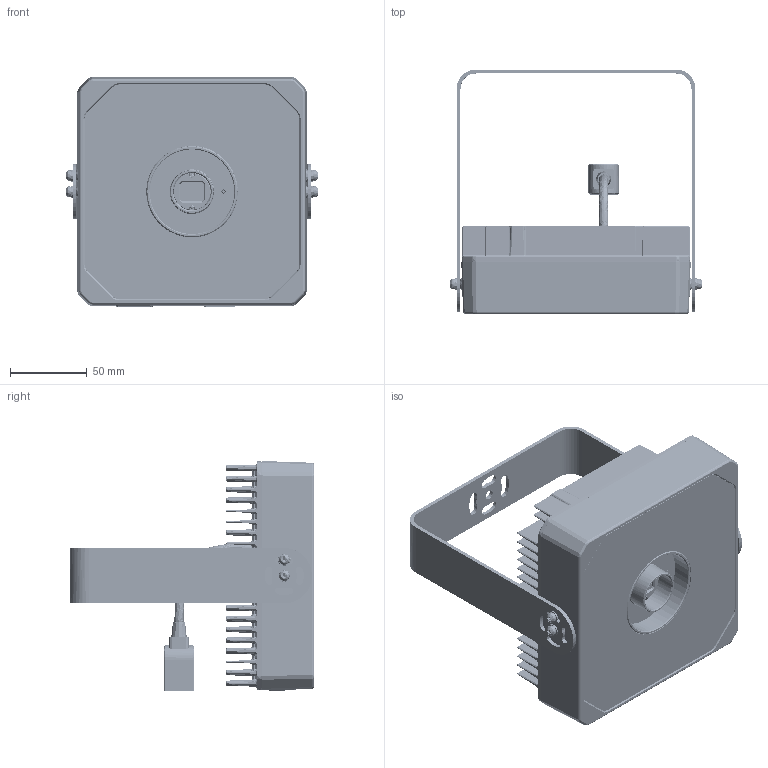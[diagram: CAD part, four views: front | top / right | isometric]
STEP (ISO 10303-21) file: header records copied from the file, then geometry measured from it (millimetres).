
FILE_DESCRIPTION(/* description */ (''),/* implementation_level */ '2;1');
FILE_NAME(/* name */ '12mp',/* time_stamp */ '2022-06-21T14:20:16+08:00',/* author */ (''),/* organization */ (''),/* preprocessor_version */ 'ST-DEVELOPER v16.5',/* originating_system */ '',/* authorisation */ '');
FILE_SCHEMA (('CONFIG_CONTROL_DESIGN'));
Products named in the file (40): Document; 000; 20001; DE-13-000831-05-24; SC_T1M2X3B; D-01-35-26-0007; MV-25115REV10-03171641-20220329; MV-25115REV10-202204011925_ASM; MV-25116REV10-202204011903_ASM; DA-19-007533; DE-12-000092; 190609782; D-01-37-26-0007; 193100277_SC-P0M2X5NL-GB818; 0003; MV-25116_ASM; PCB-LED-V3_1_; VH-2AW_1_; GW_PUSRA1PM_20170929_GEOMETRY_1; 101300365; 101301863; 100600954; 100600927; 101102247; 101107317; 101102076; DE-12-000564; DE-13-000409; DE-19-000197_; SC-PSFM4X10-SUS-GB9074_8; D-01-35-26-0837_6; SC-PA3X8B-JMP_; DE-15-000079; SC-PA2X6-JMP; DE-14-004581; 191400326_19; D-01-32-26-0686_; D-01-32-26-0685_; SC-K1A3X12-BNI_; DE-12-000092_
Assembly tree (151 placements, depth 3):
  Document
    000
    20001
    DE-13-000831-05-24
    SC_T1M2X3B  x2
    D-01-35-26-0007
    MV-25115REV10-03171641-20220329
    MV-25115REV10-202204011925_ASM
    MV-25116REV10-202204011903_ASM
    DA-19-007533
    DE-12-000092
    190609782
    D-01-37-26-0007
    193100277_SC-P0M2X5NL-GB818  x4
    0003
    MV-25116_ASM
      PCB-LED-V3_1_
      VH-2AW_1_
      GW_PUSRA1PM_20170929_GEOMETRY_1  x24
      101300365
      101301863
      100600954  x24
      100600927  x24
    101102247
    101107317
    101102076
    DE-12-000564
    DE-13-000409
    DE-19-000197_  x2
    SC-PSFM4X10-SUS-GB9074_8  x4
    D-01-35-26-0837_6
    SC-PA3X8B-JMP_  x24
    DE-15-000079  x4
    SC-PA2X6-JMP  x3
    DE-14-004581
    191400326_19  x4
    D-01-32-26-0686_
    D-01-32-26-0685_  x2
    SC-K1A3X12-BNI_  x4
    DE-12-000092_
Bounding box: 164.2 x 159.1 x 149.6 mm (x, y, z)
Volume: 528939.5 mm3; surface area: 610787.2 mm2
Topology: 308 solids, 336 shells, 19933 faces, 49980 edges, 31455 vertices
Faces by surface type: plane 12010, cylinder 4867, bspline 3056
Entity records: 479774 total; most frequent: CARTESIAN_POINT 245152, ORIENTED_EDGE 69652, EDGE_CURVE 34889, B_SPLINE_CURVE_WITH_KNOTS 26469, VERTEX_POINT 21929, EDGE_LOOP 14764, ADVANCED_FACE 13732, FACE_OUTER_BOUND 13732
